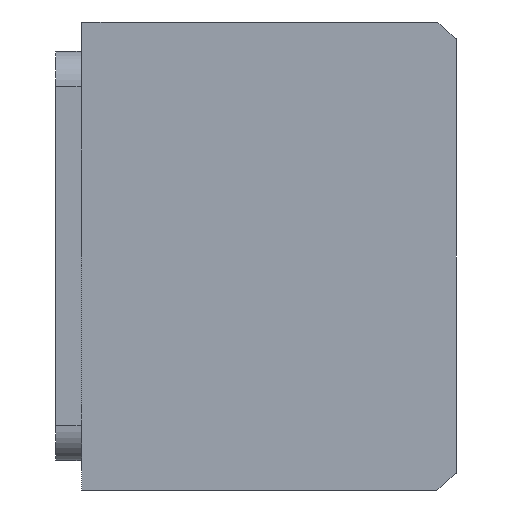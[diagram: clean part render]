
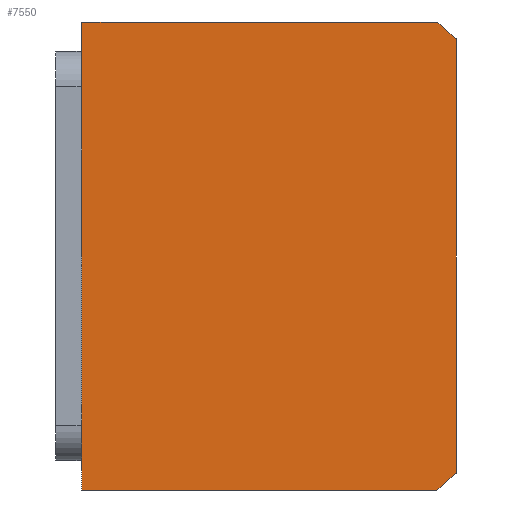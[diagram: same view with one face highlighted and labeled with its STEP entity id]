
A CAD part, front view. The second image highlights one B-rep face of the part: STEP entity #7550.
In plain terms, the highlighted planar face has unit normal (0, -1, 0) as drawn and (0, 0, -1) by its records, which use the part's own axes.
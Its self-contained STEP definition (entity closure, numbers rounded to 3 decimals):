
#902 = EDGE_CURVE ( 'NONE', #8302, #8848, #4719, .T. ) ;
#1457 = DIRECTION ( 'NONE',  ( -1., 0., 0. ) ) ;
#1789 = DIRECTION ( 'NONE',  ( 0., 0., 1. ) ) ;
#1796 = CARTESIAN_POINT ( 'NONE',  ( 40., 32., 0. ) ) ;
#2139 = EDGE_CURVE ( 'NONE', #8214, #3001, #4869, .T. ) ;
#2727 = ORIENTED_EDGE ( 'NONE', *, *, #2139, .F. ) ;
#3001 = VERTEX_POINT ( 'NONE', #13847 ) ;
#3280 = CARTESIAN_POINT ( 'NONE',  ( -40., -28.639, 0. ) ) ;
#3776 = DIRECTION ( 'NONE',  ( 1., 0., 0. ) ) ;
#3797 = VECTOR ( 'NONE', #1457, 1000. ) ;
#3798 = CARTESIAN_POINT ( 'NONE',  ( 40., 32., 0. ) ) ;
#4175 = ORIENTED_EDGE ( 'NONE', *, *, #10505, .F. ) ;
#4272 = DIRECTION ( 'NONE',  ( 0., -1., 0. ) ) ;
#4719 = CIRCLE ( 'NONE', #11477, 51. ) ;
#4724 = CARTESIAN_POINT ( 'NONE',  ( -40., 32., 0. ) ) ;
#4854 = CARTESIAN_POINT ( 'NONE',  ( 0., 3., 0. ) ) ;
#4869 = CIRCLE ( 'NONE', #5845, 51. ) ;
#4987 = VECTOR ( 'NONE', #9296, 1000. ) ;
#5477 = DIRECTION ( 'NONE',  ( 1., 0., 0. ) ) ;
#5845 = AXIS2_PLACEMENT_3D ( 'NONE', #4854, #12331, #5928 ) ;
#5860 = PLANE ( 'NONE',  #11807 ) ;
#5928 = DIRECTION ( 'NONE',  ( 1., 0., 0. ) ) ;
#6422 = CARTESIAN_POINT ( 'NONE',  ( -40., 32., 0. ) ) ;
#6539 = VECTOR ( 'NONE', #4272, 1000. ) ;
#7342 = ORIENTED_EDGE ( 'NONE', *, *, #8597, .F. ) ;
#7550 = ADVANCED_FACE ( 'NONE', ( #13748 ), #5860, .F. ) ;
#8004 = CARTESIAN_POINT ( 'NONE',  ( 0., 0., 0. ) ) ;
#8214 = VERTEX_POINT ( 'NONE', #3280 ) ;
#8302 = VERTEX_POINT ( 'NONE', #8772 ) ;
#8358 = LINE ( 'NONE', #6422, #6539 ) ;
#8597 = EDGE_CURVE ( 'NONE', #8848, #10642, #13177, .T. ) ;
#8772 = CARTESIAN_POINT ( 'NONE',  ( 37.094, -32., 0. ) ) ;
#8848 = VERTEX_POINT ( 'NONE', #11670 ) ;
#9184 = ORIENTED_EDGE ( 'NONE', *, *, #12871, .F. ) ;
#9291 = CARTESIAN_POINT ( 'NONE',  ( 0., 3., 0. ) ) ;
#9296 = DIRECTION ( 'NONE',  ( 0., 1., 0. ) ) ;
#9304 = VERTEX_POINT ( 'NONE', #11149 ) ;
#10168 = DIRECTION ( 'NONE',  ( 0., 0., 1. ) ) ;
#10304 = ORIENTED_EDGE ( 'NONE', *, *, #13270, .F. ) ;
#10505 = EDGE_CURVE ( 'NONE', #10642, #9304, #12316, .T. ) ;
#10642 = VERTEX_POINT ( 'NONE', #3798 ) ;
#10728 = VECTOR ( 'NONE', #5477, 1000. ) ;
#10819 = CARTESIAN_POINT ( 'NONE',  ( -40., -32., 0. ) ) ;
#11149 = CARTESIAN_POINT ( 'NONE',  ( -40., 32., 0. ) ) ;
#11457 = DIRECTION ( 'NONE',  ( 1., 0., 0. ) ) ;
#11472 = EDGE_LOOP ( 'NONE', ( #2727, #10304, #4175, #7342, #12213, #9184 ) ) ;
#11477 = AXIS2_PLACEMENT_3D ( 'NONE', #9291, #1789, #11457 ) ;
#11670 = CARTESIAN_POINT ( 'NONE',  ( 40., -28.639, 0. ) ) ;
#11807 = AXIS2_PLACEMENT_3D ( 'NONE', #8004, #10168, #3776 ) ;
#12213 = ORIENTED_EDGE ( 'NONE', *, *, #902, .F. ) ;
#12316 = LINE ( 'NONE', #4724, #3797 ) ;
#12331 = DIRECTION ( 'NONE',  ( 0., 0., 1. ) ) ;
#12871 = EDGE_CURVE ( 'NONE', #3001, #8302, #13925, .T. ) ;
#13177 = LINE ( 'NONE', #1796, #4987 ) ;
#13270 = EDGE_CURVE ( 'NONE', #9304, #8214, #8358, .T. ) ;
#13748 = FACE_OUTER_BOUND ( 'NONE', #11472, .T. ) ;
#13847 = CARTESIAN_POINT ( 'NONE',  ( -37.094, -32., 0. ) ) ;
#13925 = LINE ( 'NONE', #10819, #10728 ) ;
